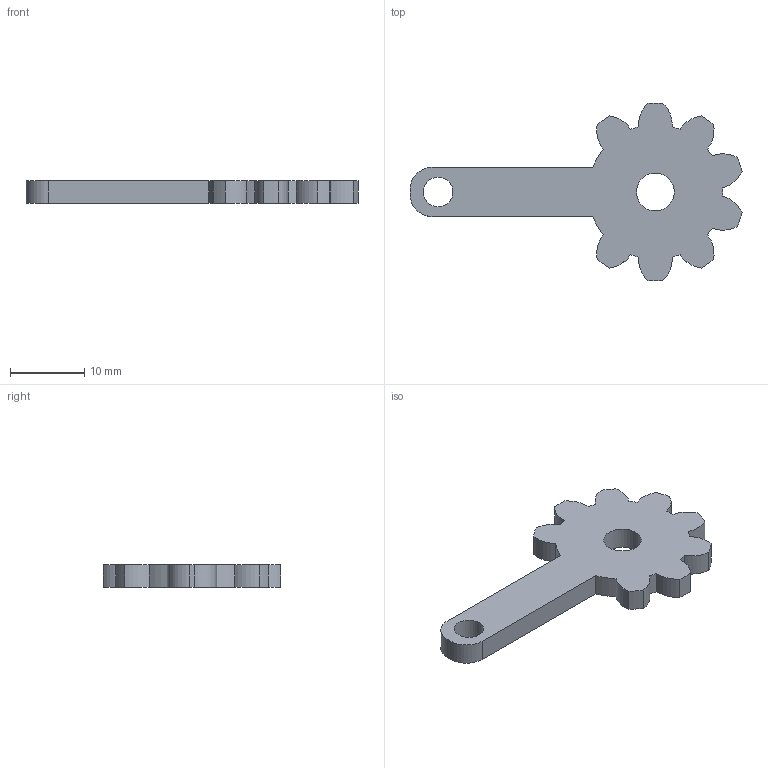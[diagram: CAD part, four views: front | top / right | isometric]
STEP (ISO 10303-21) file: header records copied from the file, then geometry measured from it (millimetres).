
FILE_DESCRIPTION(/* description */ ('STEP AP242','CAx-IF Rec.Pracs.---Representation and Presentation of Product Manufacturing Information (PMI)---4.0---2014-10-13','CAx-IF Rec.Pracs.---3D Tessellated Geometry---0.4---2014-09-14','2;1'),/* implementation_level */ '2;1');
FILE_NAME(/* name */ '65dac0eaf3c31e2e3b9e1f02',/* time_stamp */ '2024-02-25T04:24:10Z',/* author */ (''),/* organization */ (''),/* preprocessor_version */ 'ST-DEVELOPER v19.4',/* originating_system */ ' ',/* authorisation */ ' ');
FILE_SCHEMA (('AP242_MANAGED_MODEL_BASED_3D_ENGINEERING_MIM_LF { 1 0 10303 442 1 1 4 }'));
Length unit declared in the file: metre
Products named in the file (1): Part 1
Bounding box: 44.77 x 23.99 x 3 mm (x, y, z)
Volume: 1420 mm3; surface area: 1450.8 mm2
Topology: 1 solids, 1 shells, 44 faces, 126 edges, 84 vertices
Faces by surface type: cylinder 38, plane 6
Full cylindrical faces by diameter (mm): 4 x1, 5.1 x1
Entity records: 1506 total; most frequent: DIRECTION 290, CARTESIAN_POINT 253, ORIENTED_EDGE 248, EDGE_CURVE 124, AXIS2_PLACEMENT_3D 121, VERTEX_POINT 84, CIRCLE 76, EDGE_LOOP 50
